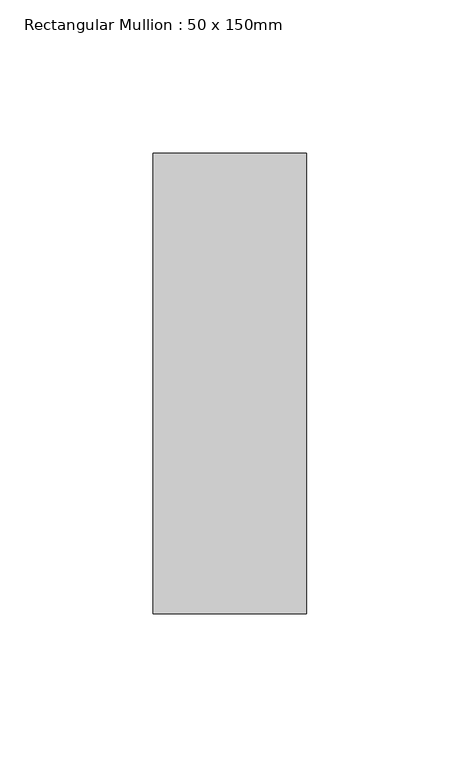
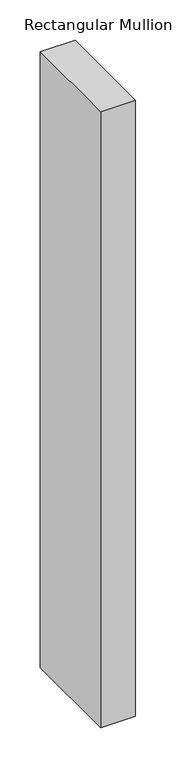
"""IFC4 building model written with IfcOpenShell, lengths in millimetres: member geometry, Rectangular Mullion : 50 x 150mm."""

from ifc_helpers import new_model, si_unit, frame, origin, place, context, project, spatial, polyline, outline, extrude, source, transform, mapped, element, save


def rectangular_mullion_50_x_150mm_39ecd5a2(model_context):
    return source(origin(), model_context, "Body", "SweptSolid", [
        extrude(outline(polyline([(0.0, 75.0), (0.0, -75.0), (-50.0, -75.0), (-50.0, 75.0), (0.0, 75.0)])), frame((0.0, 0.0, -935.225), z_axis=(0.0, 0.0, 1.0), x_axis=(1.0, 0.0, 0.0)), (0.0, 0.0, 1.0), 935.225),
    ])


if __name__ == "__main__":
    model = new_model("IFC4")
    model_context = context("Model", 3, world=origin())
    ifc_project = project(units=[si_unit("LENGTHUNIT", "METRE", prefix="MILLI")], contexts=[model_context])
    site = spatial("IfcSite", under=ifc_project)
    building = spatial("IfcBuilding", under=site)
    placement = place(None, origin())
    rectangular_mullion_50_x_150mm_shape = rectangular_mullion_50_x_150mm_39ecd5a2(model_context)
    element("IfcMember", 1, ObjectType="Rectangular Mullion : 50 x 150mm", at=placement, inside=building, context=model_context, shape_type="MappedRepresentation", body=[
        mapped(rectangular_mullion_50_x_150mm_shape, transform((0.0, 0.0, 0.0), x_axis=(1.0, 0.0, 0.0), y_axis=(0.0, 1.0, 0.0), z_axis=(0.0, 0.0, 1.0))),
    ])
    save(model, "model.ifc")
